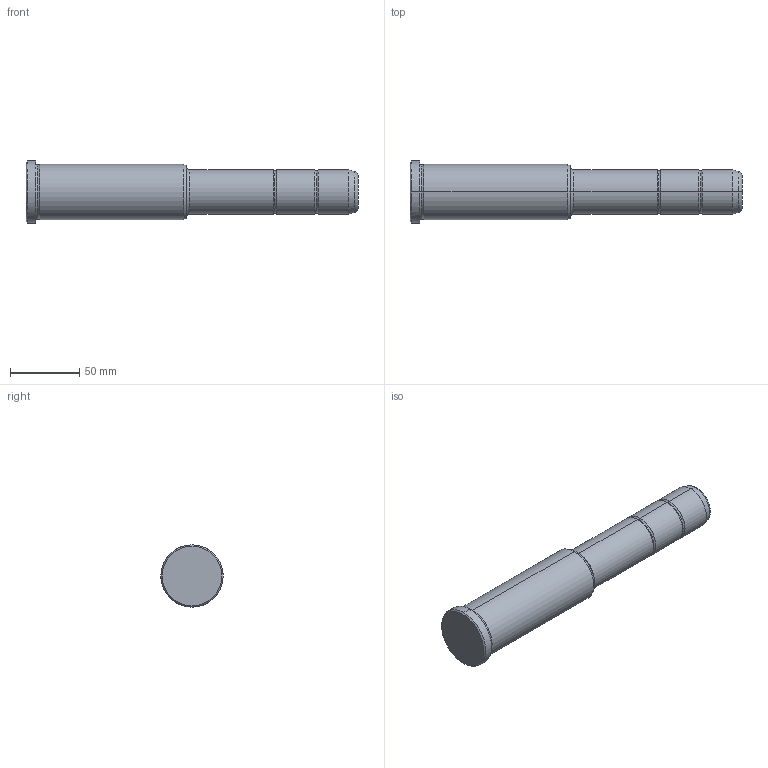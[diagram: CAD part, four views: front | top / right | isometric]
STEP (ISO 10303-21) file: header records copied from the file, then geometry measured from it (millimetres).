
FILE_DESCRIPTION(('CATIA V5 STEP Exchange'),'2;1');
FILE_NAME('C:\Users\Utente\Desktop\IO LAVORO\3D X SITO CF\X SITO\PLASTICA\351\351-32X116X240.stp','2021-09-15T11:38:54+00:00',('none'),('none'),'CATIA Version 5 Release 20 GA (IN-10)','CATIA V5 STEP AP203','none');
FILE_SCHEMA(('CONFIG_CONTROL_DESIGN'));
Length unit declared in the file: millimetre
Products named in the file (1): 351-32X116X240
Bounding box: 240 x 45 x 45 mm (x, y, z)
Volume: 246627.9 mm3; surface area: 29904.3 mm2
Topology: 1 solids, 1 shells, 36 faces, 102 edges, 70 vertices
Faces by surface type: torus 16, cylinder 10, cone 6, plane 4
Entity records: 1292 total; most frequent: CARTESIAN_POINT 321, ORIENTED_EDGE 204, DIRECTION 166, AXIS2_PLACEMENT_3D 115, EDGE_CURVE 102, CIRCLE 78, VERTEX_POINT 70, EDGE_LOOP 38
